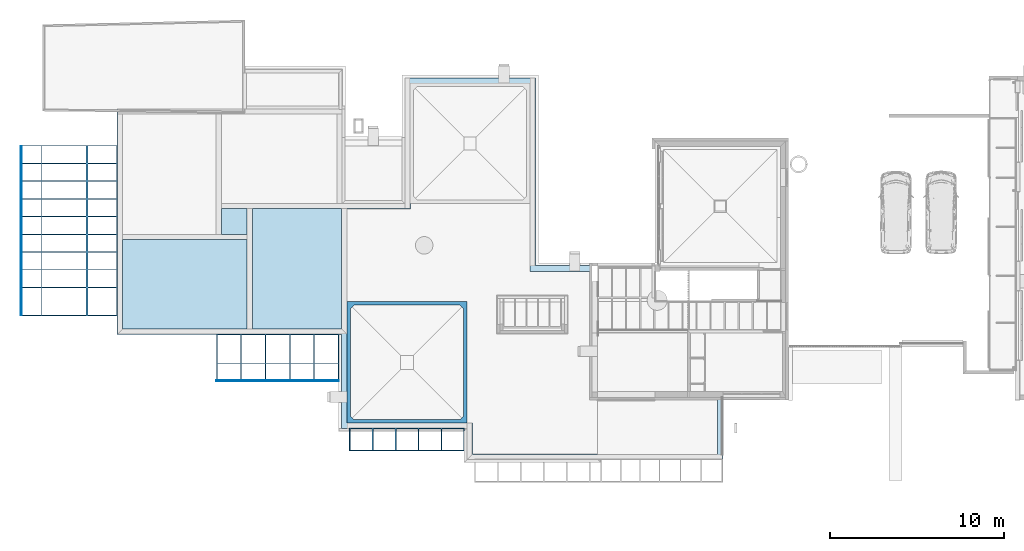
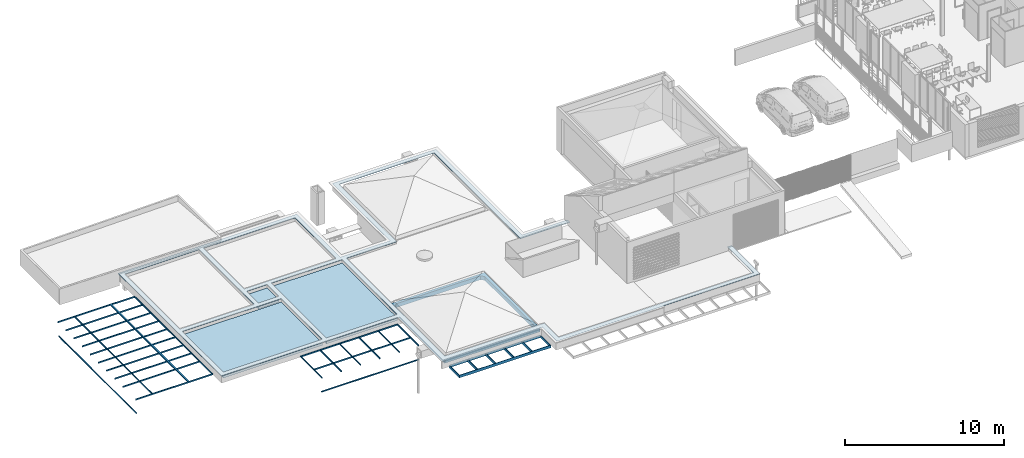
# One storey, part 11 of 51: 10 slabs, 34 openings.
"""IFC2X3 building model written with IfcOpenShell, lengths in metres."""

from ifc_helpers import new_model, entity, si_unit, converted_unit, derived_unit, direction, frame, frame_2d, origin, origin_2d_with_axis, place, context, subcontext, project, spatial, polyline, rectangle, outline, extrude, material, layer, layer_set, layer_usage, type_object, element, save


model = new_model("IFC2X3")

# Units and contexts
model_context = context("Model", 3, precision=1e-05, world=origin(), true_north=direction((6.123031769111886e-17, 1.0)))
body_context = subcontext(model_context, "Body", "Model", "MODEL_VIEW")
ifc_project = project(units=[si_unit("LENGTHUNIT", "METRE"), si_unit("AREAUNIT", "SQUARE_METRE"), si_unit("VOLUMEUNIT", "CUBIC_METRE"), converted_unit("PLANEANGLEUNIT", "DEGREE", entity("IfcRatioMeasure", 0.017453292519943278), si_unit("PLANEANGLEUNIT", "RADIAN"), dimensions=[0, 0, 0, 0, 0, 0, 0]), si_unit("MASSUNIT", "GRAM", prefix="KILO"), derived_unit("MASSDENSITYUNIT", [(si_unit("MASSUNIT", "GRAM", prefix="KILO"), 1), (si_unit("LENGTHUNIT", "METRE"), -3)]), derived_unit("MOMENTOFINERTIAUNIT", [(si_unit("LENGTHUNIT", "METRE"), 4)]), si_unit("TIMEUNIT", "SECOND"), si_unit("FREQUENCYUNIT", "HERTZ"), si_unit("THERMODYNAMICTEMPERATUREUNIT", "DEGREE_CELSIUS"), derived_unit("THERMALTRANSMITTANCEUNIT", [(si_unit("MASSUNIT", "GRAM", prefix="KILO"), 1), (si_unit("THERMODYNAMICTEMPERATUREUNIT", "KELVIN"), -1), (si_unit("TIMEUNIT", "SECOND"), -3)]), derived_unit("THERMALCONDUCTANCEUNIT", [(si_unit("MASSUNIT", "GRAM", prefix="KILO"), 1), (si_unit("LENGTHUNIT", "METRE"), 1), (si_unit("THERMODYNAMICTEMPERATUREUNIT", "KELVIN"), -1), (si_unit("TIMEUNIT", "SECOND"), -3)]), derived_unit("VOLUMETRICFLOWRATEUNIT", [(si_unit("LENGTHUNIT", "METRE"), 3), (si_unit("TIMEUNIT", "SECOND"), -1)]), derived_unit("MASSFLOWRATEUNIT", [(si_unit("MASSUNIT", "GRAM", prefix="KILO"), 1), (si_unit("TIMEUNIT", "SECOND"), -1)]), derived_unit("ROTATIONALFREQUENCYUNIT", [(si_unit("TIMEUNIT", "SECOND"), -1)]), si_unit("ELECTRICCURRENTUNIT", "AMPERE"), si_unit("ELECTRICVOLTAGEUNIT", "VOLT"), si_unit("POWERUNIT", "WATT"), si_unit("FORCEUNIT", "NEWTON", prefix="KILO"), si_unit("ILLUMINANCEUNIT", "LUX"), si_unit("LUMINOUSFLUXUNIT", "LUMEN"), si_unit("LUMINOUSINTENSITYUNIT", "CANDELA"), derived_unit("USERDEFINED", [(si_unit("MASSUNIT", "GRAM", prefix="KILO"), -1), (si_unit("LENGTHUNIT", "METRE"), -2), (si_unit("TIMEUNIT", "SECOND"), 3), (si_unit("LUMINOUSFLUXUNIT", "LUMEN"), 1)]), derived_unit("USERDEFINED", [(si_unit("MASSUNIT", "GRAM", prefix="KILO"), 1), (si_unit("LENGTHUNIT", "METRE"), 3), (si_unit("TIMEUNIT", "SECOND"), -3), (si_unit("ELECTRICCURRENTUNIT", "AMPERE"), -2)]), derived_unit("USERDEFINED", [(si_unit("LENGTHUNIT", "METRE"), 2), (si_unit("TIMEUNIT", "SECOND"), -2)]), derived_unit("SOUNDPOWERUNIT", [(si_unit("MASSUNIT", "GRAM", prefix="KILO"), 1), (si_unit("LENGTHUNIT", "METRE"), 2), (si_unit("TIMEUNIT", "SECOND"), -3)]), derived_unit("SOUNDPRESSUREUNIT", [(si_unit("MASSUNIT", "GRAM", prefix="KILO"), 1), (si_unit("LENGTHUNIT", "METRE"), -1), (si_unit("TIMEUNIT", "SECOND"), -2)]), derived_unit("LINEARVELOCITYUNIT", [(si_unit("LENGTHUNIT", "METRE"), 1), (si_unit("TIMEUNIT", "SECOND"), -1)]), si_unit("PRESSUREUNIT", "PASCAL"), derived_unit("USERDEFINED", [(si_unit("LENGTHUNIT", "METRE"), -2), (si_unit("MASSUNIT", "GRAM", prefix="KILO"), 1), (si_unit("TIMEUNIT", "SECOND"), -2)]), derived_unit("LINEARFORCEUNIT", [(si_unit("MASSUNIT", "GRAM", prefix="KILO"), 1), (si_unit("LENGTHUNIT", "METRE"), 1), (si_unit("TIMEUNIT", "SECOND"), -2), (si_unit("LENGTHUNIT", "METRE"), -1)]), derived_unit("PLANARFORCEUNIT", [(si_unit("MASSUNIT", "GRAM", prefix="KILO"), 1), (si_unit("LENGTHUNIT", "METRE"), 1), (si_unit("TIMEUNIT", "SECOND"), -2), (si_unit("LENGTHUNIT", "METRE"), -2)]), derived_unit("SPECIFICHEATCAPACITYUNIT", [(si_unit("LENGTHUNIT", "METRE"), 2), (si_unit("TIMEUNIT", "SECOND"), -2), (si_unit("THERMODYNAMICTEMPERATUREUNIT", "KELVIN"), -1)]), derived_unit("VAPORPERMEABILITYUNIT", [(si_unit("TIMEUNIT", "SECOND"), 1), (si_unit("LENGTHUNIT", "METRE"), -1)]), derived_unit("DYNAMICVISCOSITYUNIT", [(si_unit("MASSUNIT", "GRAM", prefix="KILO"), 1), (si_unit("LENGTHUNIT", "METRE"), -1), (si_unit("TIMEUNIT", "SECOND"), -1)]), derived_unit("THERMALEXPANSIONCOEFFICIENTUNIT", [(si_unit("THERMODYNAMICTEMPERATUREUNIT", "KELVIN"), -1)])], contexts=[model_context])

# Site, building, storey
site_placement = place(None, origin())
site = spatial("IfcSite", under=ifc_project, at=site_placement, Name="Default", CompositionType="ELEMENT")
building_placement = place(site_placement, origin())
building = spatial("IfcBuilding", under=site, at=building_placement, CompositionType="ELEMENT")
storey_placement = place(building_placement, frame((0.0, 0.0, 3.06)))
storey = spatial("IfcBuildingStorey", under=building, at=storey_placement, Name="ÉTAGE", CompositionType="ELEMENT", Elevation=3.06)

# Slab, openings
ifc_material_1 = material(Name="Métal - Zinc")
ifc_layer_1 = layer(ifc_material_1, 0.00869412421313)
ifc_layer_set_1 = layer_set([ifc_layer_1], Name="Toit de base:Toit-01")
ifc_layer_usage_1 = layer_usage(ifc_layer_set_1, "AXIS3", "NEGATIVE", 0.0)
slab_type_1 = type_object("IfcSlabType", Name="Toit-01", PredefinedType="ROOF")
slab_1_placement = place(storey_placement, origin())
slab_1 = element("IfcSlab", 1, at=slab_1_placement, inside=storey, type_object=slab_type_1, material=ifc_layer_usage_1, Name="Toit de base:Toit-01", ObjectType="Toit de base:Toit-01", PredefinedType="ROOF", context=body_context, shape_type="SweptSolid", body=[
    extrude(outline(polyline([(-4.245384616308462, -11.969230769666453), (3.264615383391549, -11.969230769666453), (3.264615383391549, -4.7492307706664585), (6.854615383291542, -4.7492307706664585), (6.854615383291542, -10.189230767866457), (19.814615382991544, -10.189230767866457), (19.814615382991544, 2.7907692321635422), (6.904615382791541, 2.7907692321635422), (6.904615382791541, 8.21076922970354), (-0.3053846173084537, 8.21076922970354), (-0.3053846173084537, 10.000769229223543), (-15.035384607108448, 10.000769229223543), (-15.035384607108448, 6.41076923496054), (-14.71538460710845, 6.41076923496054), (-14.71538460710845, 9.680769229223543), (-0.6253846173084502, 9.680769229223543), (-0.6253846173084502, 7.890769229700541), (6.5846153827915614, 7.890769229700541), (6.5846153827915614, -4.42923077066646), (2.9446153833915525, -4.42923077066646), (2.9446153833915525, -11.649230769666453), (-3.9253846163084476, -11.649230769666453), (-3.9253846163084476, -0.8392307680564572), (-7.515384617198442, -0.8392307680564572), (-7.515384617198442, -1.1592307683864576), (-4.245384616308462, -1.1592307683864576), (-4.245384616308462, -11.969230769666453)])), frame((109.55536766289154, 14.15797871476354, 0.2800000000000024), z_axis=(0.0, 0.0, 1.0), x_axis=(-1.0, 0.0, 0.0)), (0.0, 0.0, 1.0), 0.008694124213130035),
])
opening_1_placement = place(storey_placement, origin())
element("IfcOpeningElement", 2, at=opening_1_placement, cuts=slab_1, Name="Toit de base:Toit-01:1", ObjectType="Opening", context=body_context, shape_type="SweptSolid", body=[
    extrude(rectangle(XDim=5.119999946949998, YDim=7.150000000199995, at=frame_2d((0.0, 8.659739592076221e-15), x_axis=(1.0, 0.0))), frame((93.63575227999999, 14.247209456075, 0.2800000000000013), z_axis=(0.0, 0.0, 1.0), x_axis=(0.0, 1.0, 0.0)), (0.0, 0.0, 1.0), 0.008694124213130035),
])
opening_2_placement = place(storey_placement, origin())
element("IfcOpeningElement", 3, at=opening_2_placement, cuts=slab_1, Name="Toit de base:Toit-01:2", ObjectType="Opening", context=body_context, shape_type="SweptSolid", body=[
    extrude(rectangle(XDim=5.370000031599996, YDim=6.899999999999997, at=frame_2d((0.0, -1.1102230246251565e-15), x_axis=(1.0, 0.0))), frame((92.74575229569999, 20.577209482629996, 0.2800000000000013), z_axis=(0.0, 0.0, 1.0), x_axis=(-1.0, 0.0, 0.0)), (0.0, 0.0, 1.0), 0.008694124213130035),
])
opening_3_placement = place(storey_placement, origin())
element("IfcOpeningElement", 4, at=opening_3_placement, cuts=slab_1, Name="Toit de base:Toit-01:3", ObjectType="Opening", context=body_context, shape_type="SweptSolid", body=[
    extrude(rectangle(XDim=1.460000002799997, YDim=1.460000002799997, at=frame_2d((-8.659739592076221e-15, 0.0), x_axis=(1.0, 0.0))), frame((96.48075228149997, 17.857209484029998, 0.2800000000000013), z_axis=(0.0, 0.0, 1.0), x_axis=(-1.0, 0.0, 0.0)), (0.0, 0.0, 1.0), 0.008694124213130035),
])
opening_4_placement = place(storey_placement, origin())
element("IfcOpeningElement", 5, at=opening_4_placement, cuts=slab_1, Name="Toit de base:Toit-01:4", ObjectType="Opening", context=body_context, shape_type="SweptSolid", body=[
    extrude(rectangle(XDim=6.629999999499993, YDim=5.119999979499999, at=frame_2d((0.0, -1.1102230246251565e-15), x_axis=(1.0, 0.0))), frame((99.06575227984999, 21.46720947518, 0.2800000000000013)), (0.0, 0.0, 1.0), 0.008694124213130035),
])
opening_5_placement = place(storey_placement, origin())
element("IfcOpeningElement", 6, at=opening_5_placement, cuts=slab_1, Name="Toit de base:Toit-01:5", ObjectType="Opening", context=body_context, shape_type="SweptSolid", body=[
    extrude(rectangle(XDim=6.900000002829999, YDim=5.120000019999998, at=origin_2d_with_axis()), frame((100.09075229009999, 15.137209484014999, 0.2800000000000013), z_axis=(0.0, 0.0, 1.0), x_axis=(0.0, 1.0, 0.0)), (0.0, 0.0, 1.0), 0.008694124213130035),
])

# Slab, opening
ifc_material_2 = material(Name="Appareillage - Pierre taillé")
ifc_layer_2 = layer(ifc_material_2, 0.29999999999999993)
ifc_layer_set_2 = layer_set([ifc_layer_2], Name="Sol:Dalle-004")
ifc_layer_usage_2 = layer_usage(ifc_layer_set_2, "AXIS3", "POSITIVE", 0.0)
slab_type_2 = type_object("IfcSlabType", Name="Sol:Dalle-004", PredefinedType="FLOOR", material=ifc_layer_set_2)
slab_2_placement = place(storey_placement, frame((102.96075228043, 6.257209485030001, -0.26000000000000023)))
slab_2 = element("IfcSlab", 7, at=slab_2_placement, inside=storey, type_object=slab_type_2, material=ifc_layer_usage_2, Name="Sol:Dalle-004", ObjectType="Sol:Dalle-004", PredefinedType="FLOOR", context=body_context, shape_type="SweptSolid", body=[
    extrude(rectangle(XDim=6.909999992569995, YDim=6.989999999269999, at=origin_2d_with_axis()), frame((3.4549999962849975, 3.494999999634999, 0.30000000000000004), z_axis=(0.0, 0.0, -1.0), x_axis=(-1.0, 0.0, 0.0)), (0.0, 0.0, 1.0), 0.30000000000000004),
])
opening_6_placement = place(slab_2_placement, frame((3.4549999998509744, 3.4949999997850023, 0.30000000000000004)))
element("IfcOpeningElement", 8, at=opening_6_placement, cuts=slab_2, Name="Sol:Dalle-004:2", ObjectType="Opening", context=body_context, shape_type="SweptSolid", body=[
    extrude(outline(polyline([(-3.054999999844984, -3.294999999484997), (3.054999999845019, -3.294999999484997), (3.254999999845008, -3.0949999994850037), (3.254999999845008, 3.0949999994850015), (3.054999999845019, 3.294999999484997), (-3.054999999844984, 3.294999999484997), (-3.2549999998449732, 3.0949999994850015), (-3.2549999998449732, -3.0949999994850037), (-3.054999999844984, -3.294999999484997)])), frame((0.0, 0.0, 0.0), z_axis=(0.0, 0.0, -1.0), x_axis=(1.0, 0.0, 0.0)), (0.0, 0.0, 1.0), 0.30000000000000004),
])

# Slabs
ifc_layer_3 = layer(ifc_material_2, 0.2)
ifc_layer_set_3 = layer_set([ifc_layer_3], Name="Sol:Dalle-009:1544")
ifc_layer_usage_3 = layer_usage(ifc_layer_set_3, "AXIS3", "POSITIVE", 0.0)
slab_type_3 = type_object("IfcSlabType", Name="Sol:Dalle-009:1544", PredefinedType="FLOOR", material=ifc_layer_set_3)
slab_3_placement = place(storey_placement, origin())
element("IfcSlab", 9, at=slab_3_placement, inside=storey, type_object=slab_type_3, material=ifc_layer_usage_3, Name="Sol:Dalle-009:1544", ObjectType="Sol:Dalle-009:1544", PredefinedType="FLOOR", context=body_context, shape_type="SweptSolid", body=[
    extrude(rectangle(XDim=6.920000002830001, YDim=5.140000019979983, at=frame_2d((-8.881784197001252e-16, -8.659739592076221e-15), x_axis=(1.0, 0.0))), frame((100.09075229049, 15.137209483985, 0.03999999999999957), z_axis=(0.0, 0.0, -1.0), x_axis=(0.0, 1.0, 0.0)), (0.0, 0.0, 1.0), 0.2),
])
slab_4_placement = place(storey_placement, origin())
element("IfcSlab", 10, at=slab_4_placement, inside=storey, type_object=slab_type_3, material=ifc_layer_usage_3, Name="Sol:Dalle-009:1544", ObjectType="Sol:Dalle-009:1544", PredefinedType="FLOOR", context=body_context, shape_type="SweptSolid", body=[
    extrude(rectangle(XDim=1.4800000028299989, YDim=1.480000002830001, at=frame_2d((-1.1102230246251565e-15, -8.659739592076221e-15), x_axis=(1.0, 0.0))), frame((96.480752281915, 17.857209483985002, 0.03999999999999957), z_axis=(0.0, 0.0, -1.0), x_axis=(0.0, 1.0, 0.0)), (0.0, 0.0, 1.0), 0.2),
])
slab_5_placement = place(storey_placement, origin())
element("IfcSlab", 11, at=slab_5_placement, inside=storey, type_object=slab_type_3, material=ifc_layer_usage_3, Name="Sol:Dalle-009:1544", ObjectType="Sol:Dalle-009:1544", PredefinedType="FLOOR", context=body_context, shape_type="SweptSolid", body=[
    extrude(rectangle(XDim=5.139999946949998, YDim=7.170000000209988, at=frame_2d((2.220446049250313e-15, 0.0), x_axis=(1.0, 0.0))), frame((93.635752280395, 14.247209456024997, 0.03999999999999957), z_axis=(0.0, 0.0, -1.0), x_axis=(0.0, 1.0, 0.0)), (0.0, 0.0, 1.0), 0.2),
])

# Slab, openings
ifc_material_3 = material(Name="Métal - Fer")
ifc_layer_4 = layer(ifc_material_3, 0.2)
ifc_layer_set_4 = layer_set([ifc_layer_4], Name="Sol:Dalle-009:1567")
ifc_layer_usage_4 = layer_usage(ifc_layer_set_4, "AXIS3", "POSITIVE", 0.0)
slab_type_4 = type_object("IfcSlabType", Name="Sol:Dalle-009:1567", PredefinedType="FLOOR", material=ifc_layer_set_4)
slab_6_placement = place(storey_placement, frame((103.09575228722, 4.6572094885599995, -0.45999999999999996)))
slab_6 = element("IfcSlab", 12, at=slab_6_placement, inside=storey, type_object=slab_type_4, material=ifc_layer_usage_4, Name="Sol:Dalle-009:1567", ObjectType="Sol:Dalle-009:1567", PredefinedType="FLOOR", context=body_context, shape_type="SweptSolid", body=[
    extrude(rectangle(XDim=6.614999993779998, YDim=1.2999999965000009, at=origin_2d_with_axis()), frame((3.30749999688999, 0.6499999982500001, 0.2), z_axis=(0.0, 0.0, -1.0), x_axis=(-1.0, 0.0, 0.0)), (0.0, 0.0, 1.0), 0.2),
])
opening_7_placement = place(slab_6_placement, frame((0.6849999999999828, 0.66499999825, 0.2)))
element("IfcOpeningElement", 13, at=opening_7_placement, cuts=slab_6, Name="Sol:Dalle-009:1567:2", ObjectType="Opening", context=body_context, shape_type="SweptSolid", body=[
    extrude(rectangle(XDim=1.2700000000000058, YDim=1.2499999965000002, at=origin_2d_with_axis()), frame((0.0, 0.0, 0.0), z_axis=(0.0, 0.0, -1.0), x_axis=(-1.0, 0.0, 0.0)), (0.0, 0.0, 1.0), 0.2),
])
opening_8_placement = place(slab_6_placement, frame((5.964999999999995, 0.66499999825, 0.2)))
element("IfcOpeningElement", 14, at=opening_8_placement, cuts=slab_6, Name="Sol:Dalle-009:1567:3", ObjectType="Opening", context=body_context, shape_type="SweptSolid", body=[
    extrude(rectangle(XDim=1.270000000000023, YDim=1.2499999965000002, at=origin_2d_with_axis()), frame((0.0, 0.0, 0.0), z_axis=(0.0, 0.0, -1.0), x_axis=(-1.0, 0.0, 0.0)), (0.0, 0.0, 1.0), 0.2),
])
opening_9_placement = place(slab_6_placement, frame((4.644999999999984, 0.66499999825, 0.2)))
element("IfcOpeningElement", 15, at=opening_9_placement, cuts=slab_6, Name="Sol:Dalle-009:1567:4", ObjectType="Opening", context=body_context, shape_type="SweptSolid", body=[
    extrude(rectangle(XDim=1.2700000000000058, YDim=1.2499999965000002, at=origin_2d_with_axis()), frame((0.0, 0.0, 0.0), z_axis=(0.0, 0.0, -1.0), x_axis=(-1.0, 0.0, 0.0)), (0.0, 0.0, 1.0), 0.2),
])
opening_10_placement = place(slab_6_placement, frame((3.3250000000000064, 0.66499999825, 0.2)))
element("IfcOpeningElement", 16, at=opening_10_placement, cuts=slab_6, Name="Sol:Dalle-009:1567:5", ObjectType="Opening", context=body_context, shape_type="SweptSolid", body=[
    extrude(rectangle(XDim=1.2700000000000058, YDim=1.2499999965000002, at=origin_2d_with_axis()), frame((0.0, 0.0, 0.0), z_axis=(0.0, 0.0, -1.0), x_axis=(-1.0, 0.0, 0.0)), (0.0, 0.0, 1.0), 0.2),
])
opening_11_placement = place(slab_6_placement, frame((2.0049999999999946, 0.66499999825, 0.2)))
element("IfcOpeningElement", 17, at=opening_11_placement, cuts=slab_6, Name="Sol:Dalle-009:1567:6", ObjectType="Opening", context=body_context, shape_type="SweptSolid", body=[
    extrude(rectangle(XDim=1.2699999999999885, YDim=1.2499999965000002, at=origin_2d_with_axis()), frame((0.0, 0.0, 0.0), z_axis=(0.0, 0.0, -1.0), x_axis=(-1.0, 0.0, 0.0)), (0.0, 0.0, 1.0), 0.2),
])

ifc_layer_5 = layer(ifc_material_3, 0.1)
ifc_layer_set_5 = layer_set([ifc_layer_5], Name="Sol:Dalle-009:1570")
ifc_layer_usage_5 = layer_usage(ifc_layer_set_5, "AXIS3", "POSITIVE", 0.0)
slab_type_5 = type_object("IfcSlabType", Name="Sol:Dalle-009:1570", PredefinedType="FLOOR", material=ifc_layer_set_5)
slab_7_placement = place(storey_placement, frame((84.15075228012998, 12.427209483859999, -0.26000000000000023)))
slab_7 = element("IfcSlab", 18, at=slab_7_placement, inside=storey, type_object=slab_type_5, material=ifc_layer_usage_5, Name="Sol:Dalle-009:1570", ObjectType="Sol:Dalle-009:1570", PredefinedType="FLOOR", context=body_context, shape_type="SweptSolid", body=[
    extrude(outline(polyline([(1.5999999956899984, -0.24000005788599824), (2.7999999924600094, -0.24000005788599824), (2.7999999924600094, -0.18999998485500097), (1.5999999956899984, -0.18999998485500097), (1.5999999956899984, 0.7799999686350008), (2.7999999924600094, 0.7799999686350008), (2.7999999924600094, 0.8300000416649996), (1.5999999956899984, 0.8300000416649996), (1.5999999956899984, 1.7999999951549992), (2.7999999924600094, 1.7999999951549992), (2.7999999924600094, 1.8500000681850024), (1.5999999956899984, 1.8500000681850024), (1.5999999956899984, 2.820000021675), (2.7999999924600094, 2.820000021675), (2.7999999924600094, 2.869999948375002), (1.5999999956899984, 2.869999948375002), (1.5999999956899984, 3.840000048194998), (2.7999999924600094, 3.840000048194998), (2.7999999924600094, 3.8899999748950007), (1.5999999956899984, 3.8899999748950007), (1.5999999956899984, 4.859999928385), (2.7999999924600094, 4.859999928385), (2.7999999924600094, 4.910000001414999), (-2.799999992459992, 4.910000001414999), (-2.799999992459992, -4.910000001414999), (2.7999999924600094, -4.910000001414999), (2.7999999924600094, -4.859999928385), (1.5999999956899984, -4.859999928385), (1.5999999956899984, -3.299999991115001), (2.7999999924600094, -3.299999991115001), (2.7999999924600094, -3.2500000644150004), (1.5999999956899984, -3.2500000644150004), (1.5999999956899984, -2.279999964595), (2.7999999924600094, -2.279999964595), (2.7999999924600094, -2.230000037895), (1.5999999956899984, -2.230000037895), (1.5999999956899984, -1.2599999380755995), (2.7999999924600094, -1.2599999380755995), (2.7999999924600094, -1.2100000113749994), (1.5999999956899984, -1.2100000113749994), (1.5999999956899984, -0.24000005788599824)])), frame((2.7999999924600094, 4.910000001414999, 0.1), z_axis=(0.0, 0.0, -1.0), x_axis=(-1.0, 0.0, 0.0)), (0.0, 0.0, 1.0), 0.1),
])
opening_12_placement = place(slab_7_placement, frame((2.5250000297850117, 5.204999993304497, 0.1)))
element("IfcOpeningElement", 19, at=opening_12_placement, cuts=slab_7, Name="Sol:Dalle-009:1570:2", ObjectType="Opening", context=body_context, shape_type="SweptSolid", body=[
    extrude(rectangle(XDim=0.9699999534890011, YDim=2.549999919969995, at=origin_2d_with_axis()), frame((0.0, 0.0, 0.0), z_axis=(0.0, 0.0, -1.0), x_axis=(0.0, -1.0, 0.0)), (0.0, 0.0, 1.0), 0.1),
])
opening_13_placement = place(slab_7_placement, frame((2.5250000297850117, 4.184999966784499, 0.1)))
element("IfcOpeningElement", 20, at=opening_13_placement, cuts=slab_7, Name="Sol:Dalle-009:1570:3", ObjectType="Opening", context=body_context, shape_type="SweptSolid", body=[
    extrude(rectangle(XDim=0.9699999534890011, YDim=2.549999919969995, at=origin_2d_with_axis()), frame((0.0, 0.0, 0.0), z_axis=(0.0, 0.0, -1.0), x_axis=(0.0, -1.0, 0.0)), (0.0, 0.0, 1.0), 0.1),
])
opening_14_placement = place(slab_7_placement, frame((2.5250000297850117, 9.284999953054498, 0.1)))
element("IfcOpeningElement", 21, at=opening_14_placement, cuts=slab_7, Name="Sol:Dalle-009:1570:4", ObjectType="Opening", context=body_context, shape_type="SweptSolid", body=[
    extrude(rectangle(XDim=0.969999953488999, YDim=2.549999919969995, at=origin_2d_with_axis()), frame((0.0, 0.0, 0.0), z_axis=(0.0, 0.0, -1.0), x_axis=(0.0, -1.0, 0.0)), (0.0, 0.0, 1.0), 0.1),
])
opening_15_placement = place(slab_7_placement, frame((2.5250000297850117, 2.1449999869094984, 0.1)))
element("IfcOpeningElement", 22, at=opening_15_placement, cuts=slab_7, Name="Sol:Dalle-009:1570:5", ObjectType="Opening", context=body_context, shape_type="SweptSolid", body=[
    extrude(rectangle(XDim=0.9700000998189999, YDim=2.549999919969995, at=origin_2d_with_axis()), frame((0.0, 0.0, 0.0), z_axis=(0.0, 0.0, -1.0), x_axis=(0.0, -1.0, 0.0)), (0.0, 0.0, 1.0), 0.1),
])
opening_16_placement = place(slab_7_placement, frame((2.5250000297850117, 8.264999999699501, 0.1)))
element("IfcOpeningElement", 23, at=opening_16_placement, cuts=slab_7, Name="Sol:Dalle-009:1570:6", ObjectType="Opening", context=body_context, shape_type="SweptSolid", body=[
    extrude(rectangle(XDim=0.9700000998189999, YDim=2.549999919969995, at=origin_2d_with_axis()), frame((0.0, 0.0, 0.0), z_axis=(0.0, 0.0, -1.0), x_axis=(0.0, -1.0, 0.0)), (0.0, 0.0, 1.0), 0.1),
])
opening_17_placement = place(slab_7_placement, frame((2.5250000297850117, 3.165000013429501, 0.1)))
element("IfcOpeningElement", 24, at=opening_17_placement, cuts=slab_7, Name="Sol:Dalle-009:1570:7", ObjectType="Opening", context=body_context, shape_type="SweptSolid", body=[
    extrude(rectangle(XDim=0.9700000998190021, YDim=2.549999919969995, at=origin_2d_with_axis()), frame((0.0, 0.0, 0.0), z_axis=(0.0, 0.0, -1.0), x_axis=(0.0, -1.0, 0.0)), (0.0, 0.0, 1.0), 0.1),
])
opening_18_placement = place(slab_7_placement, frame((2.5250000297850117, 7.245000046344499, 0.1)))
element("IfcOpeningElement", 25, at=opening_18_placement, cuts=slab_7, Name="Sol:Dalle-009:1570:8", ObjectType="Opening", context=body_context, shape_type="SweptSolid", body=[
    extrude(rectangle(XDim=0.9699999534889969, YDim=2.549999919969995, at=origin_2d_with_axis()), frame((0.0, 0.0, 0.0), z_axis=(0.0, 0.0, -1.0), x_axis=(0.0, -1.0, 0.0)), (0.0, 0.0, 1.0), 0.1),
])
opening_19_placement = place(slab_7_placement, frame((2.5250000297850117, 6.2250000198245, 0.1)))
element("IfcOpeningElement", 26, at=opening_19_placement, cuts=slab_7, Name="Sol:Dalle-009:1570:9", ObjectType="Opening", context=body_context, shape_type="SweptSolid", body=[
    extrude(rectangle(XDim=0.9699999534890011, YDim=2.549999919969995, at=origin_2d_with_axis()), frame((0.0, 0.0, 0.0), z_axis=(0.0, 0.0, -1.0), x_axis=(0.0, -1.0, 0.0)), (0.0, 0.0, 1.0), 0.1),
])
opening_20_placement = place(slab_7_placement, frame((2.5250000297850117, 0.8300000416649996, 0.1)))
element("IfcOpeningElement", 27, at=opening_20_placement, cuts=slab_7, Name="Sol:Dalle-009:1570:10", ObjectType="Opening", context=body_context, shape_type="SweptSolid", body=[
    extrude(rectangle(XDim=1.5599999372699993, YDim=2.549999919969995, at=origin_2d_with_axis()), frame((0.0, 0.0, 0.0), z_axis=(0.0, 0.0, -1.0), x_axis=(0.0, -1.0, 0.0)), (0.0, 0.0, 1.0), 0.1),
])
opening_21_placement = place(slab_7_placement, frame((4.725000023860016, 3.165000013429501, 0.1)))
element("IfcOpeningElement", 28, at=opening_21_placement, cuts=slab_7, Name="Sol:Dalle-009:1570:11", ObjectType="Opening", context=body_context, shape_type="SweptSolid", body=[
    extrude(rectangle(XDim=1.6500000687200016, YDim=0.9700000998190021, at=origin_2d_with_axis()), frame((0.0, 0.0, 0.0), z_axis=(0.0, 0.0, -1.0), x_axis=(-1.0, 0.0, 0.0)), (0.0, 0.0, 1.0), 0.1),
])
opening_22_placement = place(slab_7_placement, frame((4.725000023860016, 4.184999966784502, 0.1)))
element("IfcOpeningElement", 29, at=opening_22_placement, cuts=slab_7, Name="Sol:Dalle-009:1570:12", ObjectType="Opening", context=body_context, shape_type="SweptSolid", body=[
    extrude(rectangle(XDim=1.6500000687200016, YDim=0.9699999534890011, at=origin_2d_with_axis()), frame((0.0, 0.0, 0.0), z_axis=(0.0, 0.0, -1.0), x_axis=(-1.0, 0.0, 0.0)), (0.0, 0.0, 1.0), 0.1),
])
opening_23_placement = place(slab_7_placement, frame((4.725000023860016, 8.264999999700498, 0.1)))
element("IfcOpeningElement", 30, at=opening_23_placement, cuts=slab_7, Name="Sol:Dalle-009:1570:13", ObjectType="Opening", context=body_context, shape_type="SweptSolid", body=[
    extrude(rectangle(XDim=0.9700000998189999, YDim=1.6500000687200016, at=origin_2d_with_axis()), frame((0.0, 0.0, 0.0), z_axis=(0.0, 0.0, -1.0), x_axis=(0.0, 1.0, 0.0)), (0.0, 0.0, 1.0), 0.1),
])
opening_24_placement = place(slab_7_placement, frame((4.725000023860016, 5.204999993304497, 0.1)))
element("IfcOpeningElement", 31, at=opening_24_placement, cuts=slab_7, Name="Sol:Dalle-009:1570:14", ObjectType="Opening", context=body_context, shape_type="SweptSolid", body=[
    extrude(rectangle(XDim=0.9699999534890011, YDim=1.6500000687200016, at=origin_2d_with_axis()), frame((0.0, 0.0, 0.0), z_axis=(0.0, 0.0, -1.0), x_axis=(0.0, -1.0, 0.0)), (0.0, 0.0, 1.0), 0.1),
])
opening_25_placement = place(slab_7_placement, frame((4.725000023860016, 0.8300000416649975, 0.1)))
element("IfcOpeningElement", 32, at=opening_25_placement, cuts=slab_7, Name="Sol:Dalle-009:1570:15", ObjectType="Opening", context=body_context, shape_type="SweptSolid", body=[
    extrude(rectangle(XDim=1.6500000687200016, YDim=1.5599999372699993, at=origin_2d_with_axis()), frame((0.0, 0.0, 0.0), z_axis=(0.0, 0.0, -1.0), x_axis=(-1.0, 0.0, 0.0)), (0.0, 0.0, 1.0), 0.1),
])
opening_26_placement = place(slab_7_placement, frame((4.725000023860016, 6.225000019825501, 0.1)))
element("IfcOpeningElement", 33, at=opening_26_placement, cuts=slab_7, Name="Sol:Dalle-009:1570:16", ObjectType="Opening", context=body_context, shape_type="SweptSolid", body=[
    extrude(rectangle(XDim=0.9699999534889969, YDim=1.6500000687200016, at=origin_2d_with_axis()), frame((0.0, 0.0, 0.0), z_axis=(0.0, 0.0, -1.0), x_axis=(0.0, 1.0, 0.0)), (0.0, 0.0, 1.0), 0.1),
])
opening_27_placement = place(slab_7_placement, frame((4.725000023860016, 9.284999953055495, 0.1)))
element("IfcOpeningElement", 34, at=opening_27_placement, cuts=slab_7, Name="Sol:Dalle-009:1570:17", ObjectType="Opening", context=body_context, shape_type="SweptSolid", body=[
    extrude(rectangle(XDim=0.9699999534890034, YDim=1.6500000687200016, at=origin_2d_with_axis()), frame((0.0, 0.0, 0.0), z_axis=(0.0, 0.0, -1.0), x_axis=(0.0, 1.0, 0.0)), (0.0, 0.0, 1.0), 0.1),
])
opening_28_placement = place(slab_7_placement, frame((4.725000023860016, 7.245000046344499, 0.1)))
element("IfcOpeningElement", 35, at=opening_28_placement, cuts=slab_7, Name="Sol:Dalle-009:1570:18", ObjectType="Opening", context=body_context, shape_type="SweptSolid", body=[
    extrude(rectangle(XDim=1.6500000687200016, YDim=0.9699999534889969, at=origin_2d_with_axis()), frame((0.0, 0.0, 0.0), z_axis=(0.0, 0.0, -1.0), x_axis=(-1.0, 0.0, 0.0)), (0.0, 0.0, 1.0), 0.1),
])
opening_29_placement = place(slab_7_placement, frame((4.725000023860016, 2.144999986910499, 0.1)))
element("IfcOpeningElement", 36, at=opening_29_placement, cuts=slab_7, Name="Sol:Dalle-009:1570:19", ObjectType="Opening", context=body_context, shape_type="SweptSolid", body=[
    extrude(rectangle(XDim=0.9700000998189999, YDim=1.6500000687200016, at=origin_2d_with_axis()), frame((0.0, 0.0, 0.0), z_axis=(0.0, 0.0, -1.0), x_axis=(0.0, 1.0, 0.0)), (0.0, 0.0, 1.0), 0.1),
])

slab_8_placement = place(storey_placement, frame((95.45075228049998, 8.677209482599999, -0.260000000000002)))
slab_8 = element("IfcSlab", 37, at=slab_8_placement, inside=storey, type_object=slab_type_5, material=ifc_layer_usage_5, Name="Sol:Dalle-009:1570", ObjectType="Sol:Dalle-009:1570", PredefinedType="FLOOR", context=body_context, shape_type="SweptSolid", body=[
    extrude(outline(polyline([(-3.5249999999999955, 1.3500000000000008), (-3.5249999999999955, -1.3500000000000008), (-3.4750000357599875, -1.3500000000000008), (-3.4750000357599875, -0.34999996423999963), (-2.12500003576, -0.34999996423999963), (-2.12500003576, -1.3500000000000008), (-2.0749999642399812, -1.3500000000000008), (-2.0749999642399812, -0.34999996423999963), (-0.7249999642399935, -0.34999996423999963), (-0.7249999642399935, -1.3500000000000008), (-0.6749999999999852, -1.3500000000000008), (-0.6749999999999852, -0.34999996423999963), (0.6750000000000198, -0.34999996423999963), (0.6750000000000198, -1.3500000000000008), (0.7249999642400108, -1.3500000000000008), (0.7249999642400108, -0.34999996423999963), (2.074999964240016, -0.34999996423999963), (2.074999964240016, -1.3500000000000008), (2.125000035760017, -1.3500000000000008), (2.125000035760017, -0.34999996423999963), (3.4750000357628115, -0.34999996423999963), (3.4750000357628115, -1.3500000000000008), (3.525000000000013, -1.3500000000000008), (3.525000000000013, 1.3500000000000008), (-3.5249999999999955, 1.3500000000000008)])), frame((3.525000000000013, 1.3500000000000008, 0.1), z_axis=(0.0, 0.0, -1.0), x_axis=(-1.0, 0.0, 0.0)), (0.0, 0.0, 1.0), 0.1),
])
opening_30_placement = place(slab_8_placement, frame((0.7249999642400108, 1.8500000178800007, 0.1)))
element("IfcOpeningElement", 38, at=opening_30_placement, cuts=slab_8, Name="Sol:Dalle-009:1570:2", ObjectType="Opening", context=body_context, shape_type="SweptSolid", body=[
    extrude(rectangle(XDim=1.600000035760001, YDim=1.3499999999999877, at=origin_2d_with_axis()), frame((0.0, 0.0, 0.0), z_axis=(0.0, 0.0, -1.0), x_axis=(0.0, -1.0, 0.0)), (0.0, 0.0, 1.0), 0.1),
])
opening_31_placement = place(slab_8_placement, frame((2.12500003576, 1.8500000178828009, 0.1)))
element("IfcOpeningElement", 39, at=opening_31_placement, cuts=slab_8, Name="Sol:Dalle-009:1570:3", ObjectType="Opening", context=body_context, shape_type="SweptSolid", body=[
    extrude(rectangle(XDim=1.600000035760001, YDim=1.350000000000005, at=origin_2d_with_axis()), frame((0.0, 0.0, 0.0), z_axis=(0.0, 0.0, -1.0), x_axis=(0.0, 1.0, 0.0)), (0.0, 0.0, 1.0), 0.1),
])
opening_32_placement = place(slab_8_placement, frame((3.5249999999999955, 1.8500000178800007, 0.1)))
element("IfcOpeningElement", 40, at=opening_32_placement, cuts=slab_8, Name="Sol:Dalle-009:1570:4", ObjectType="Opening", context=body_context, shape_type="SweptSolid", body=[
    extrude(rectangle(XDim=1.600000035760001, YDim=1.350000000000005, at=origin_2d_with_axis()), frame((0.0, 0.0, 0.0), z_axis=(0.0, 0.0, -1.0), x_axis=(0.0, -1.0, 0.0)), (0.0, 0.0, 1.0), 0.1),
])
opening_33_placement = place(slab_8_placement, frame((4.9249999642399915, 1.8500000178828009, 0.1)))
element("IfcOpeningElement", 41, at=opening_33_placement, cuts=slab_8, Name="Sol:Dalle-009:1570:5", ObjectType="Opening", context=body_context, shape_type="SweptSolid", body=[
    extrude(rectangle(XDim=1.600000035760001, YDim=1.3499999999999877, at=origin_2d_with_axis()), frame((0.0, 0.0, 0.0), z_axis=(0.0, 0.0, -1.0), x_axis=(0.0, 1.0, 0.0)), (0.0, 0.0, 1.0), 0.1),
])
opening_34_placement = place(slab_8_placement, frame((6.325000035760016, 1.8500000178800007, 0.1)))
element("IfcOpeningElement", 42, at=opening_34_placement, cuts=slab_8, Name="Sol:Dalle-009:1570:6", ObjectType="Opening", context=body_context, shape_type="SweptSolid", body=[
    extrude(rectangle(XDim=1.600000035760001, YDim=1.3499999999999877, at=origin_2d_with_axis()), frame((0.0, 0.0, 0.0), z_axis=(0.0, 0.0, -1.0), x_axis=(0.0, -1.0, 0.0)), (0.0, 0.0, 1.0), 0.1),
])

# Slabs
ifc_layer_6 = layer(ifc_material_3, 0.05)
ifc_layer_set_6 = layer_set([ifc_layer_6], Name="Sol:Dalle-009")
ifc_layer_usage_6 = layer_usage(ifc_layer_set_6, "AXIS3", "POSITIVE", 0.0)
slab_type_6 = type_object("IfcSlabType", Name="Sol:Dalle-009", PredefinedType="FLOOR", material=ifc_layer_set_6)
slab_9_placement = place(storey_placement, origin())
element("IfcSlab", 43, at=slab_9_placement, inside=storey, type_object=slab_type_6, material=ifc_layer_usage_6, Name="Sol:Dalle-009", ObjectType="Sol:Dalle-009", PredefinedType="FLOOR", context=body_context, shape_type="SweptSolid", body=[
    extrude(rectangle(XDim=9.719999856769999, YDim=0.04999999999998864, at=frame_2d((-8.881784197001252e-16, 0.0), x_axis=(1.0, 0.0))), frame((84.2257522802, 17.337209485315, -1.2600000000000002), z_axis=(0.0, 0.0, -1.0), x_axis=(0.0, 1.0, 0.0)), (0.0, 0.0, 1.0), 0.05),
])
slab_10_placement = place(storey_placement, origin())
element("IfcSlab", 44, at=slab_10_placement, inside=storey, type_object=slab_type_6, material=ifc_layer_usage_6, Name="Sol:Dalle-009", ObjectType="Sol:Dalle-009", PredefinedType="FLOOR", context=body_context, shape_type="SweptSolid", body=[
    extrude(rectangle(XDim=0.050000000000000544, YDim=7.050000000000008, at=frame_2d((-5.412337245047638e-16, 8.659739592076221e-15), x_axis=(1.0, 0.0))), frame((98.97575228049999, 8.7022094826, -1.2600000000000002), z_axis=(0.0, 0.0, -1.0), x_axis=(0.0, 1.0, 0.0)), (0.0, 0.0, 1.0), 0.05),
])

save(model, "model.ifc")
